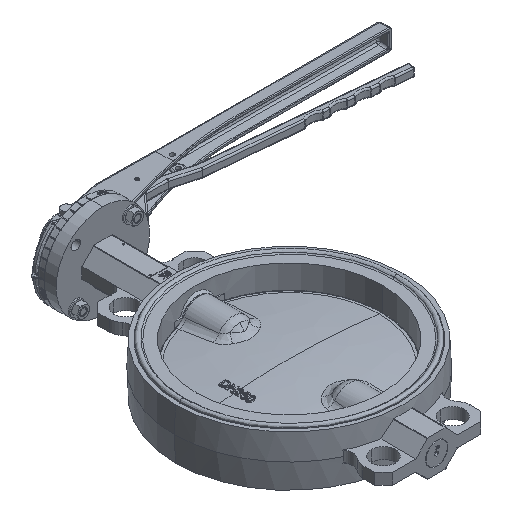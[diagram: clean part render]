
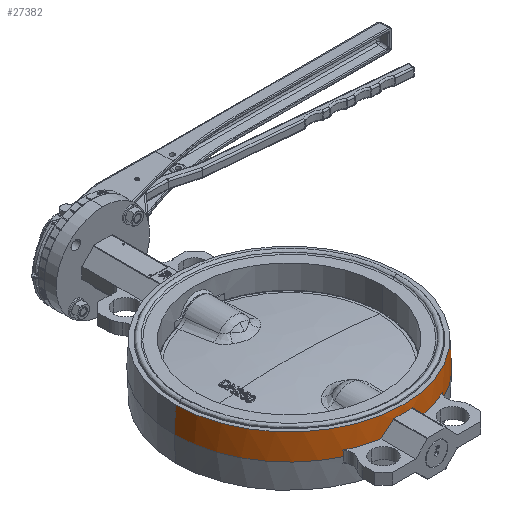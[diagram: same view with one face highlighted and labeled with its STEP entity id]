
A CAD part, isometric view. The second image highlights one B-rep face of the part: STEP entity #27382.
In plain terms, the highlighted conical face has half-angle 2.545 degrees and reference radius 152 mm.
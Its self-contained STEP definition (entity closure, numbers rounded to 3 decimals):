
#1213 = CARTESIAN_POINT ( 'NONE',  ( -66.662, -138.019, 7.5 ) ) ;
#1396 = DIRECTION ( 'NONE',  ( -1., 0., 0. ) ) ;
#1820 = CARTESIAN_POINT ( 'NONE',  ( -12.798, -151.941, 23. ) ) ;
#3086 = DIRECTION ( 'NONE',  ( 0., -0.045, -0.999 ) ) ;
#3144 = CARTESIAN_POINT ( 'NONE',  ( 22.561, -151.285, 12.641 ) ) ;
#3150 = CIRCLE ( 'NONE', #39678, 153.167 ) ;
#4369 = CARTESIAN_POINT ( 'NONE',  ( 12.202, -151.941, 23. ) ) ;
#5907 = B_SPLINE_CURVE_WITH_KNOTS ( 'NONE', 3,
 ( #66760, #43935, #26218, #67257 ),
 .UNSPECIFIED., .F., .F.,
 ( 4, 4 ),
 ( 0., 1. ),
 .UNSPECIFIED. ) ;
#6585 = VERTEX_POINT ( 'NONE', #60169 ) ;
#6928 = CARTESIAN_POINT ( 'NONE',  ( -17.986, -151.745, 17.812 ) ) ;
#6982 = VERTEX_POINT ( 'NONE', #52475 ) ;
#7682 = CARTESIAN_POINT ( 'NONE',  ( -0.298, 0.024, 33.75 ) ) ;
#8724 = AXIS2_PLACEMENT_3D ( 'NONE', #7682, #30685, #36864 ) ;
#9297 = CARTESIAN_POINT ( 'NONE',  ( 17.389, -151.745, 17.812 ) ) ;
#10690 = CIRCLE ( 'NONE', #33727, 153.5 ) ;
#10771 = B_SPLINE_CURVE_WITH_KNOTS ( 'NONE', 3,
 ( #15290, #32385, #74191, #20883 ),
 .UNSPECIFIED., .F., .F.,
 ( 4, 4 ),
 ( 0., 1. ),
 .UNSPECIFIED. ) ;
#11427 = EDGE_CURVE ( 'NONE', #33759, #39910, #62180, .T. ) ;
#11575 = DIRECTION ( 'NONE',  ( 0., 0., -1. ) ) ;
#12826 = CARTESIAN_POINT ( 'NONE',  ( -28.298, -150.562, 7.5 ) ) ;
#13681 = EDGE_CURVE ( 'NONE', #39910, #39332, #41472, .T. ) ;
#13683 = EDGE_CURVE ( 'NONE', #47664, #6585, #57067, .T. ) ;
#14190 = FACE_OUTER_BOUND ( 'NONE', #73215, .T. ) ;
#14692 = CARTESIAN_POINT ( 'NONE',  ( 27.702, -150.562, 7.5 ) ) ;
#15164 = CARTESIAN_POINT ( 'NONE',  ( 65.576, -138.622, 0. ) ) ;
#15290 = CARTESIAN_POINT ( 'NONE',  ( -66.662, -138.019, 7.5 ) ) ;
#17289 = ORIENTED_EDGE ( 'NONE', *, *, #19981, .F. ) ;
#18704 = DIRECTION ( 'NONE',  ( 0., 0., -1. ) ) ;
#19769 = CARTESIAN_POINT ( 'NONE',  ( -0.298, 0.024, 0. ) ) ;
#19981 = EDGE_CURVE ( 'NONE', #39182, #6982, #44071, .T. ) ;
#19997 = EDGE_CURVE ( 'NONE', #6585, #71065, #37820, .T. ) ;
#20221 = CARTESIAN_POINT ( 'NONE',  ( 12.202, -151.941, 23. ) ) ;
#20639 = ORIENTED_EDGE ( 'NONE', *, *, #13683, .F. ) ;
#20883 = CARTESIAN_POINT ( 'NONE',  ( -66.173, -138.622, 0. ) ) ;
#20929 = EDGE_CURVE ( 'NONE', #39332, #47664, #73274, .T. ) ;
#20953 = AXIS2_PLACEMENT_3D ( 'NONE', #63843, #74852, #69750 ) ;
#21086 = CARTESIAN_POINT ( 'NONE',  ( -0.298, 0.024, 0. ) ) ;
#23822 = CARTESIAN_POINT ( 'NONE',  ( -0.298, 0.024, 7.5 ) ) ;
#23835 = DIRECTION ( 'NONE',  ( -1., 0., 0. ) ) ;
#24020 = VECTOR ( 'NONE', #3086, 1000. ) ;
#26171 = ORIENTED_EDGE ( 'NONE', *, *, #32893, .F. ) ;
#26174 = VERTEX_POINT ( 'NONE', #1213 ) ;
#26218 = CARTESIAN_POINT ( 'NONE',  ( 65.897, -138.216, 5.149 ) ) ;
#26416 = ORIENTED_EDGE ( 'NONE', *, *, #56981, .T. ) ;
#26972 = DIRECTION ( 'NONE',  ( 0., 0., -1. ) ) ;
#27036 = AXIS2_PLACEMENT_3D ( 'NONE', #19769, #60784, #72576 ) ;
#27382 = ADVANCED_FACE ( 'NONE', ( #14190 ), #43530, .T. ) ;
#27611 = EDGE_CURVE ( 'NONE', #71065, #26174, #3150, .T. ) ;
#29588 = CARTESIAN_POINT ( 'NONE',  ( 12.202, -151.896, 24. ) ) ;
#29911 = ORIENTED_EDGE ( 'NONE', *, *, #59106, .F. ) ;
#30330 = CIRCLE ( 'NONE', #20953, 153.167 ) ;
#30458 = CARTESIAN_POINT ( 'NONE',  ( -0.298, 0.024, 24. ) ) ;
#30685 = DIRECTION ( 'NONE',  ( 0., 0., 1. ) ) ;
#31842 = LINE ( 'NONE', #45403, #45657 ) ;
#32385 = CARTESIAN_POINT ( 'NONE',  ( -66.494, -138.216, 5.149 ) ) ;
#32893 = EDGE_CURVE ( 'NONE', #49263, #49526, #5907, .T. ) ;
#33727 = AXIS2_PLACEMENT_3D ( 'NONE', #21086, #26972, #38264 ) ;
#33759 = VERTEX_POINT ( 'NONE', #34113 ) ;
#34113 = CARTESIAN_POINT ( 'NONE',  ( 27.702, -150.562, 7.5 ) ) ;
#36450 = CARTESIAN_POINT ( 'NONE',  ( -0.298, 0.024, 33.75 ) ) ;
#36864 = DIRECTION ( 'NONE',  ( -1., 0., 0. ) ) ;
#37224 = CARTESIAN_POINT ( 'NONE',  ( -28.298, -150.562, 7.5 ) ) ;
#37234 = ORIENTED_EDGE ( 'NONE', *, *, #11427, .F. ) ;
#37820 =( BOUNDED_CURVE ( )  B_SPLINE_CURVE ( 3, ( #1820, #6928, #53786, #12826 ),
 .UNSPECIFIED., .F., .F. ) 
 B_SPLINE_CURVE_WITH_KNOTS ( ( 4, 4 ),
 ( 4.75, 4.852 ),
 .UNSPECIFIED. ) 
 CURVE ( )  GEOMETRIC_REPRESENTATION_ITEM ( )  RATIONAL_B_SPLINE_CURVE ( ( 1., 0.999, 0.999, 1. ) ) 
 REPRESENTATION_ITEM ( '' )  );
#38264 = DIRECTION ( 'NONE',  ( -1., 0., 0. ) ) ;
#38885 = AXIS2_PLACEMENT_3D ( 'NONE', #30458, #18704, #23835 ) ;
#39182 = VERTEX_POINT ( 'NONE', #64241 ) ;
#39332 = VERTEX_POINT ( 'NONE', #29588 ) ;
#39360 = CIRCLE ( 'NONE', #27036, 153.5 ) ;
#39678 = AXIS2_PLACEMENT_3D ( 'NONE', #23822, #11575, #64093 ) ;
#39799 = ORIENTED_EDGE ( 'NONE', *, *, #20929, .F. ) ;
#39910 = VERTEX_POINT ( 'NONE', #4369 ) ;
#40406 = ORIENTED_EDGE ( 'NONE', *, *, #13681, .F. ) ;
#41472 = LINE ( 'NONE', #20221, #72645 ) ;
#41570 = DIRECTION ( 'NONE',  ( 0.044, 0., -0.999 ) ) ;
#42126 = ORIENTED_EDGE ( 'NONE', *, *, #62655, .F. ) ;
#43530 = CONICAL_SURFACE ( 'NONE', #69669, 152., 0.044 ) ;
#43935 = CARTESIAN_POINT ( 'NONE',  ( 65.734, -138.417, 2.649 ) ) ;
#44071 = CIRCLE ( 'NONE', #8724, 152. ) ;
#44122 = CARTESIAN_POINT ( 'NONE',  ( 12.202, -151.941, 23. ) ) ;
#45402 = CARTESIAN_POINT ( 'NONE',  ( 153.202, 0.024, 0. ) ) ;
#45403 = CARTESIAN_POINT ( 'NONE',  ( -152.298, 0.024, 33.75 ) ) ;
#45657 = VECTOR ( 'NONE', #45673, 1000. ) ;
#45673 = DIRECTION ( 'NONE',  ( -0.044, 0., -0.999 ) ) ;
#47664 = VERTEX_POINT ( 'NONE', #73971 ) ;
#48163 = ORIENTED_EDGE ( 'NONE', *, *, #19997, .F. ) ;
#49263 = VERTEX_POINT ( 'NONE', #15164 ) ;
#49526 = VERTEX_POINT ( 'NONE', #68266 ) ;
#49809 = VERTEX_POINT ( 'NONE', #62367 ) ;
#51770 = ORIENTED_EDGE ( 'NONE', *, *, #65271, .F. ) ;
#52475 = CARTESIAN_POINT ( 'NONE',  ( 151.702, 0.024, 33.75 ) ) ;
#53786 = CARTESIAN_POINT ( 'NONE',  ( -23.158, -151.285, 12.641 ) ) ;
#53898 = DIRECTION ( 'NONE',  ( 0., 0., -1. ) ) ;
#55730 = LINE ( 'NONE', #58256, #67656 ) ;
#56981 = EDGE_CURVE ( 'NONE', #39182, #49809, #31842, .T. ) ;
#57067 = LINE ( 'NONE', #66914, #24020 ) ;
#57114 = EDGE_CURVE ( 'NONE', #6982, #60822, #55730, .T. ) ;
#57152 = ORIENTED_EDGE ( 'NONE', *, *, #57114, .F. ) ;
#58256 = CARTESIAN_POINT ( 'NONE',  ( 151.702, 0.024, 33.75 ) ) ;
#59106 = EDGE_CURVE ( 'NONE', #67598, #49809, #10690, .T. ) ;
#60169 = CARTESIAN_POINT ( 'NONE',  ( -12.798, -151.941, 23. ) ) ;
#60784 = DIRECTION ( 'NONE',  ( 0., 0., -1. ) ) ;
#60822 = VERTEX_POINT ( 'NONE', #45402 ) ;
#61710 = CARTESIAN_POINT ( 'NONE',  ( -66.173, -138.622, 0. ) ) ;
#61830 = ORIENTED_EDGE ( 'NONE', *, *, #27611, .F. ) ;
#62180 =( BOUNDED_CURVE ( )  B_SPLINE_CURVE ( 3, ( #14692, #3144, #9297, #44122 ),
 .UNSPECIFIED., .F., .F. ) 
 B_SPLINE_CURVE_WITH_KNOTS ( ( 4, 4 ),
 ( 1.431, 1.533 ),
 .UNSPECIFIED. ) 
 CURVE ( )  GEOMETRIC_REPRESENTATION_ITEM ( )  RATIONAL_B_SPLINE_CURVE ( ( 1., 0.999, 0.999, 1. ) ) 
 REPRESENTATION_ITEM ( '' )  );
#62367 = CARTESIAN_POINT ( 'NONE',  ( -153.798, 0.024, 0. ) ) ;
#62655 = EDGE_CURVE ( 'NONE', #60822, #49263, #39360, .T. ) ;
#63843 = CARTESIAN_POINT ( 'NONE',  ( -0.298, 0.024, 7.5 ) ) ;
#64093 = DIRECTION ( 'NONE',  ( -1., 0., 0. ) ) ;
#64241 = CARTESIAN_POINT ( 'NONE',  ( -152.298, 0.024, 33.75 ) ) ;
#65271 = EDGE_CURVE ( 'NONE', #26174, #67598, #10771, .T. ) ;
#65799 = ORIENTED_EDGE ( 'NONE', *, *, #71254, .F. ) ;
#66760 = CARTESIAN_POINT ( 'NONE',  ( 65.576, -138.622, 0. ) ) ;
#66914 = CARTESIAN_POINT ( 'NONE',  ( -12.798, -151.896, 24. ) ) ;
#67257 = CARTESIAN_POINT ( 'NONE',  ( 66.065, -138.019, 7.5 ) ) ;
#67598 = VERTEX_POINT ( 'NONE', #61710 ) ;
#67656 = VECTOR ( 'NONE', #41570, 1000. ) ;
#68266 = CARTESIAN_POINT ( 'NONE',  ( 66.065, -138.019, 7.5 ) ) ;
#69669 = AXIS2_PLACEMENT_3D ( 'NONE', #36450, #53898, #1396 ) ;
#69750 = DIRECTION ( 'NONE',  ( -1., 0., 0. ) ) ;
#71065 = VERTEX_POINT ( 'NONE', #37224 ) ;
#71254 = EDGE_CURVE ( 'NONE', #49526, #33759, #30330, .T. ) ;
#72576 = DIRECTION ( 'NONE',  ( -1., 0., 0. ) ) ;
#72645 = VECTOR ( 'NONE', #73040, 1000. ) ;
#73040 = DIRECTION ( 'NONE',  ( 0., 0.045, 0.999 ) ) ;
#73215 = EDGE_LOOP ( 'NONE', ( #57152, #17289, #26416, #29911, #51770, #61830, #48163, #20639, #39799, #40406, #37234, #65799, #26171, #42126 ) ) ;
#73274 = CIRCLE ( 'NONE', #38885, 152.433 ) ;
#73971 = CARTESIAN_POINT ( 'NONE',  ( -12.798, -151.896, 24. ) ) ;
#74191 = CARTESIAN_POINT ( 'NONE',  ( -66.331, -138.417, 2.649 ) ) ;
#74852 = DIRECTION ( 'NONE',  ( 0., 0., -1. ) ) ;
